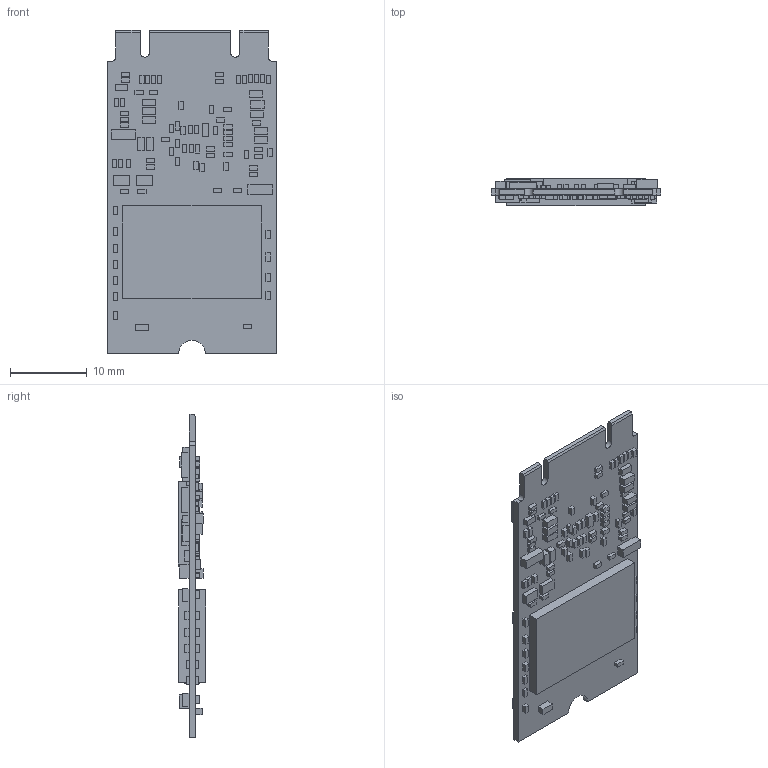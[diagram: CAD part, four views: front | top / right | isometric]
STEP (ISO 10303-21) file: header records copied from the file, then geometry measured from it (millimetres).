
FILE_DESCRIPTION((''),'2;1');
FILE_NAME('PCBA_M2_2242-D5-B-M_ASM','2017-12-11T',('otto_lian'),(''),'PRO/ENGINEER BY PARAMETRIC TECHNOLOGY CORPORATION, 2011180','PRO/ENGINEER BY PARAMETRIC TECHNOLOGY CORPORATION, 2011180','');
FILE_SCHEMA(('CONFIG_CONTROL_DESIGN'));
Length unit declared in the file: millimetre
Products named in the file (22): PCB_M2_2242-B-M; R_0603_KINGSTON; XTAL4P_2016; TSSOP8_3X3_0P65; C1206S; 8P4R_0402; SOT_323; BGA256P_11X11_0P65; SOD523_323; L-0603-KINGSTON; R-0402-KINGSTON; C-0402-KINGSTON; R0805S-SHORTPAD; LED0603; C0805; L_WQPC2S14_2R2_S; DFN6P_2X2_0P65_EP; C-0603-KINGSTON; R0603; FBGA132_BALL_1P0; 2076109FF002401N_0308_3D_ASM; PCBA_M2_2242-D5-B-M_ASM
Assembly tree (158 placements, depth 3):
  PCBA_M2_2242-D5-B-M_ASM
    PCB_M2_2242-B-M
    2076109FF002401N_0308_3D_ASM
      R_0603_KINGSTON
      XTAL4P_2016
      TSSOP8_3X3_0P65
      C1206S
      8P4R_0402
      SOT_323
      BGA256P_11X11_0P65
      SOD523_323  x3
      L-0603-KINGSTON  x2
      R-0402-KINGSTON  x41
      C-0402-KINGSTON  x72
      R0805S-SHORTPAD  x4
      LED0603  x2
      C0805  x2
      L_WQPC2S14_2R2_S  x2
      DFN6P_2X2_0P65_EP  x2
      C-0603-KINGSTON  x15
      R0603  x2
      FBGA132_BALL_1P0  x2
Bounding box: 22 x 3.55 x 42 mm (x, y, z)
Volume: 1621.8 mm3; surface area: 4053.8 mm2
Topology: 157 solids, 157 shells, 964 faces, 2243 edges, 1594 vertices
Faces by surface type: plane 959, cylinder 5
Entity records: 7912 total; most frequent: DIRECTION 1625, CARTESIAN_POINT 1304, ORIENTED_EDGE 612, VECTOR 575, LINE 575, AXIS2_PLACEMENT_3D 525, EDGE_CURVE 306, TRIMMED_CURVE 293
